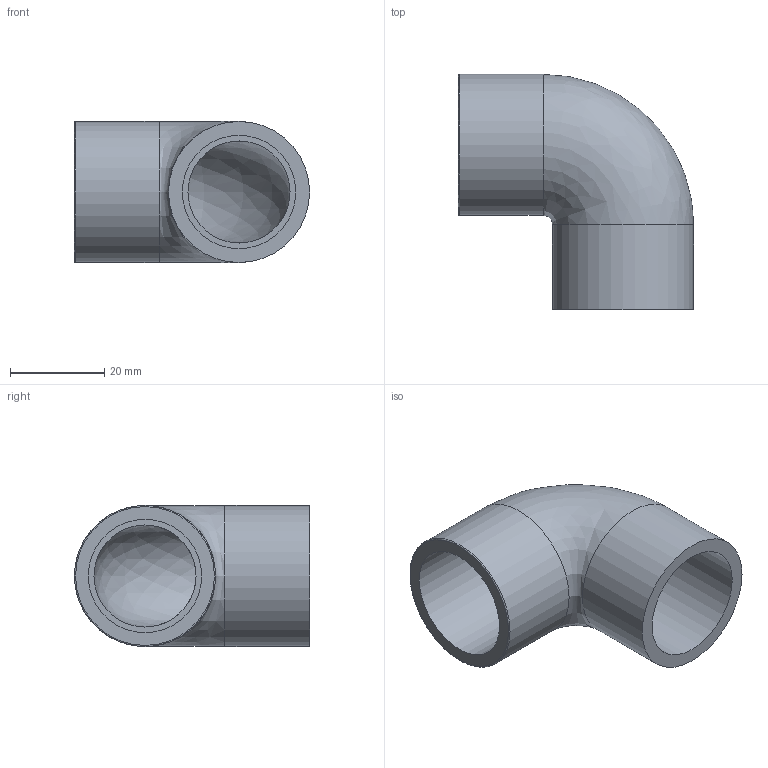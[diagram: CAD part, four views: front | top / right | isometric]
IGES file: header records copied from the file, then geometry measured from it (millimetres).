
Global section: file name: 050501007.ipt; native system: Autodesk Inventor 2015; preprocessor: unknown; author: KIM; date: 20171207.164634; units: millimetre
Bounding box: 50 x 50 x 30 mm (x, y, z)
Volume: 17995.4 mm3; surface area: 11122 mm2
Topology: 1 solids, 1 shells, 11 faces, 25 edges, 18 vertices
Faces by surface type: revolution 5, plane 4, cylinder 2
Full cylindrical faces by diameter (mm): 30 x2
